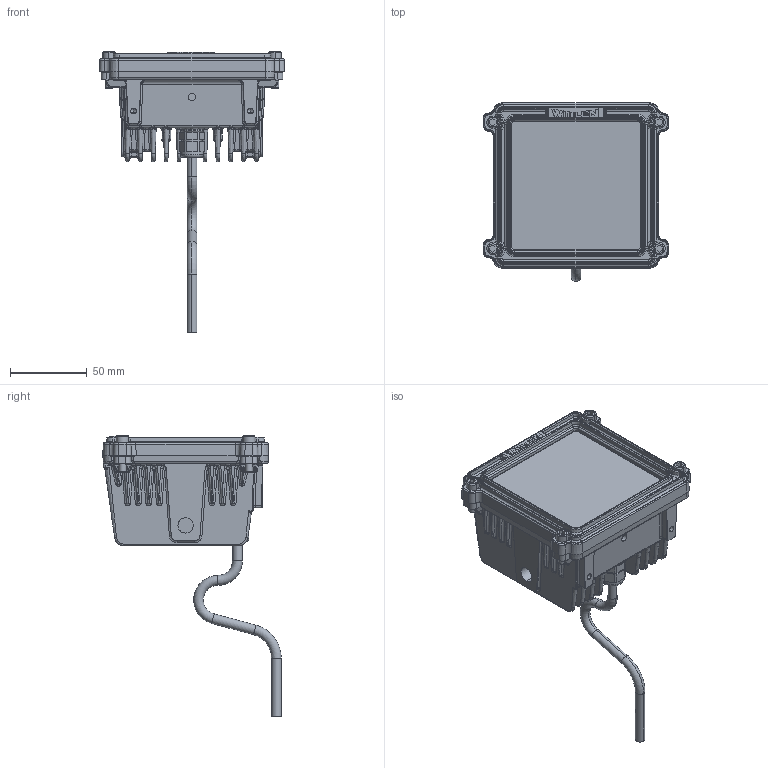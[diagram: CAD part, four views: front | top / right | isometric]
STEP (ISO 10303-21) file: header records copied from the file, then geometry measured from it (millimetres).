
FILE_DESCRIPTION (( 'STEP AP203' ), '1' );
FILE_NAME ('YE-LK24-KIT.step', '2014-05-13T20:21:19', ( 'user' ), ( '' ), 'SwSTEP 2.0', 'SolidWorks 2012', '' );
FILE_SCHEMA (( 'CONFIG_CONTROL_DESIGN' ));
Products named in the file (1): YE-LK24-KIT
Bounding box: 120.8 x 116.41 x 183.31 mm (x, y, z)
Volume: 250847.5 mm3; surface area: 134547.3 mm2
Topology: 7 solids, 8 shells, 2630 faces, 6394 edges, 3740 vertices
Faces by surface type: bspline 1051, cylinder 728, plane 715, cone 112, torus 24
Entity records: 144369 total; most frequent: CARTESIAN_POINT 90768, ORIENTED_EDGE 12576, DIRECTION 9054, EDGE_CURVE 6288, VERTEX_POINT 3740, AXIS2_PLACEMENT_3D 3178, EDGE_LOOP 2728, VECTOR 2698
